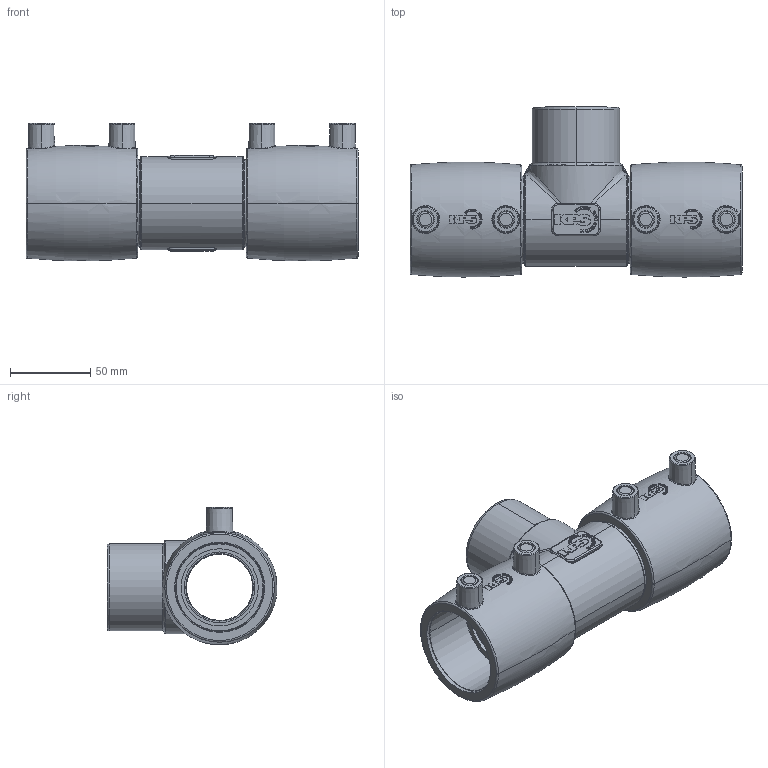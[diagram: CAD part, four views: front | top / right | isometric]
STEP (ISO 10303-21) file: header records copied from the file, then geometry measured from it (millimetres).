
FILE_DESCRIPTION (( 'STEP AP214' ), '1' );
FILE_NAME ('KP_28-54E.STEP', '2023-03-07T15:14:00', ( '' ), ( '' ), 'SwSTEP 2.0', 'SolidWorks 2022', '' );
FILE_SCHEMA (( 'AUTOMOTIVE_DESIGN' ));
Length unit declared in the file: millimetre
Products named in the file (1): KP_28-54E
Bounding box: 206.4 x 105.67 x 85.53 mm (x, y, z)
Volume: 418725.9 mm3; surface area: 123032.3 mm2
Topology: 1 solids, 5 shells, 1667 faces, 4169 edges, 2715 vertices
Faces by surface type: plane 928, bspline 380, cylinder 136, torus 133, cone 90
Entity records: 68395 total; most frequent: CARTESIAN_POINT 31945, ORIENTED_EDGE 8338, DIRECTION 5955, EDGE_CURVE 4169, VERTEX_POINT 2715, VECTOR 2205, LINE 2205, AXIS2_PLACEMENT_3D 1875
